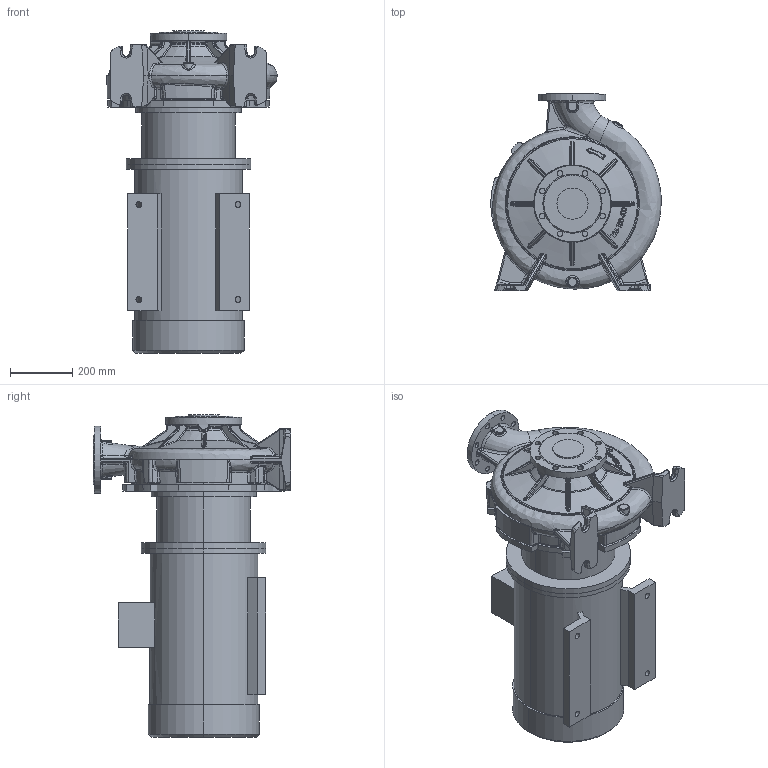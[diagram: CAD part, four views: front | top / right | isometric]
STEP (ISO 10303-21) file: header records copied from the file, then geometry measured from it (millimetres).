
FILE_DESCRIPTION (( 'STEP AP214' ), '1' );
FILE_NAME ('KRM 125-100-400-4-30.STEP', '2026-04-20T07:40:49', ( '' ), ( '' ), 'SwSTEP 2.0', 'SolidWorks 2016', '' );
FILE_SCHEMA (( 'AUTOMOTIVE_DESIGN' ));
Length unit declared in the file: millimetre
Products named in the file (1): KRM 125-100-400-4-30
Bounding box: 547.85 x 635 x 1035.3 mm (x, y, z)
Volume: 116313955.2 mm3; surface area: 3280771.1 mm2
Topology: 12 solids, 12 shells, 1382 faces, 3301 edges, 1957 vertices
Faces by surface type: bspline 580, plane 279, cylinder 270, torus 106, cone 92, sphere 55
Entity records: 107320 total; most frequent: CARTESIAN_POINT 64684, ORIENTED_EDGE 6536, DIRECTION 4602, EDGE_CURVE 3268, AXIS2_PLACEMENT_3D 1963, VERTEX_POINT 1957, EDGE_LOOP 1453, UNCERTAINTY_MEASURE_WITH_UNIT 1396
